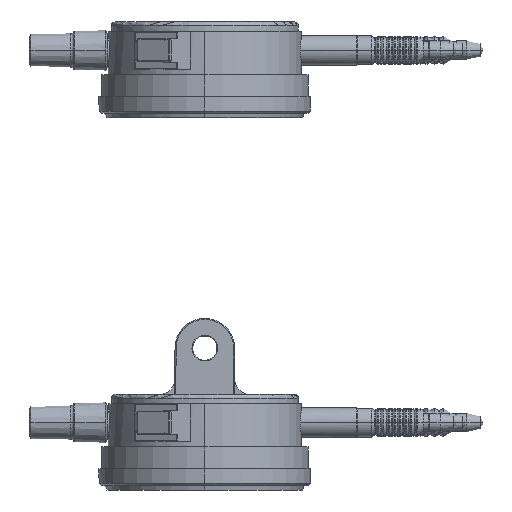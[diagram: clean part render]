
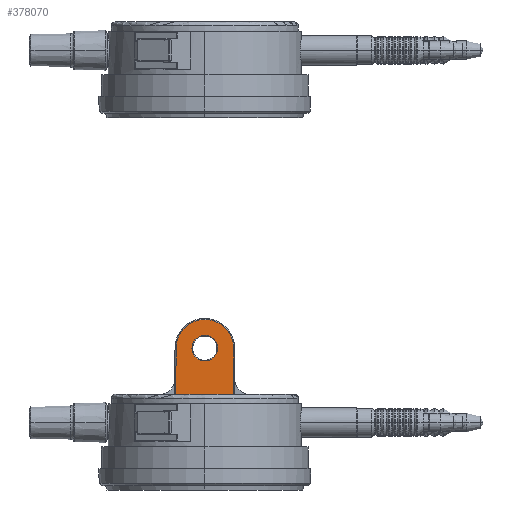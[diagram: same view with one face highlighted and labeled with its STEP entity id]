
A CAD part, left-side view. The second image highlights one B-rep face of the part: STEP entity #378070.
In plain terms, the highlighted planar face has unit normal (-1, 0, 0) as drawn and (0, 1, 0) by its records, which use the part's own axes.
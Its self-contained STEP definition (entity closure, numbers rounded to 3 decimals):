
#376060=CARTESIAN_POINT('',(4.815,25.118,
7.6));
#376070=VERTEX_POINT('',#376060);
#376100=CARTESIAN_POINT('',(0.,25.118,7.6));
#376110=DIRECTION('',(1.,0.,0.));
#376120=VECTOR('',#376110,1.);
#376130=LINE('',#376100,#376120);
#376140=CARTESIAN_POINT('',(-10.785,25.118,
7.6));
#376150=VERTEX_POINT('',#376140);
#376160=EDGE_CURVE('',#376150,#376070,#376130,.T.);
#377480=CARTESIAN_POINT('',(-2.985,25.118,16.55));
#377490=VERTEX_POINT('',#377480);
#377570=CARTESIAN_POINT('',(-2.985,25.118,23.45));
#377580=VERTEX_POINT('',#377570);
#377610=CARTESIAN_POINT('',(-2.985,25.118,20.));
#377620=DIRECTION('',(0.,1.,0.));
#377630=DIRECTION('',(0.,0.,1.));
#377640=AXIS2_PLACEMENT_3D('',#377610,#377620,#377630);
#377650=CIRCLE('',#377640,3.45);
#377660=EDGE_CURVE('',#377490,#377580,#377650,.T.);
#377710=CARTESIAN_POINT('',(-148.323,25.118,
-139.094));
#377720=DIRECTION('',(0.,1.,0.));
#377730=DIRECTION('',(0.,0.,1.));
#377740=AXIS2_PLACEMENT_3D('',#377710,#377720,#377730);
#377750=PLANE('',#377740);
#377760=EDGE_CURVE('',#377580,#377490,#377650,.T.);
#377770=ORIENTED_EDGE('',*,*,#377760,.F.);
#377780=ORIENTED_EDGE('',*,*,#377660,.F.);
#377790=EDGE_LOOP('',(#377780,#377770));
#377800=FACE_BOUND('',#377790,.T.);
#377810=CARTESIAN_POINT('',(-2.985,25.118,20.));
#377820=DIRECTION('',(0.,1.,0.));
#377830=DIRECTION('',(0.,0.,1.));
#377840=AXIS2_PLACEMENT_3D('',#377810,#377820,#377830);
#377850=CIRCLE('',#377840,7.7);
#377860=CARTESIAN_POINT('',(-10.685,25.118,
20.062));
#377870=VERTEX_POINT('',#377860);
#377880=CARTESIAN_POINT('',(4.714,25.118,
20.062));
#377890=VERTEX_POINT('',#377880);
#377900=EDGE_CURVE('',#377870,#377890,#377850,.T.);
#377910=ORIENTED_EDGE('',*,*,#377900,.T.);
#377920=CARTESIAN_POINT('',(-10.735,25.118,
13.83));
#377930=DIRECTION('',(-0.008,0.,-1.));
#377940=VECTOR('',#377930,1.);
#377950=LINE('',#377920,#377940);
#377960=EDGE_CURVE('',#377870,#376150,#377950,.T.);
#377970=ORIENTED_EDGE('',*,*,#377960,.F.);
#377980=ORIENTED_EDGE('',*,*,#376160,.F.);
#377990=CARTESIAN_POINT('',(4.765,25.118,
13.83));
#378000=DIRECTION('',(-0.008,0.,1.));
#378010=VECTOR('',#378000,1.);
#378020=LINE('',#377990,#378010);
#378030=EDGE_CURVE('',#376070,#377890,#378020,.T.);
#378040=ORIENTED_EDGE('',*,*,#378030,.F.);
#378050=EDGE_LOOP('',(#378040,#377980,#377970,#377910));
#378060=FACE_OUTER_BOUND('',#378050,.T.);
#378070=ADVANCED_FACE('',(#377800,#378060),#377750,.T.);
